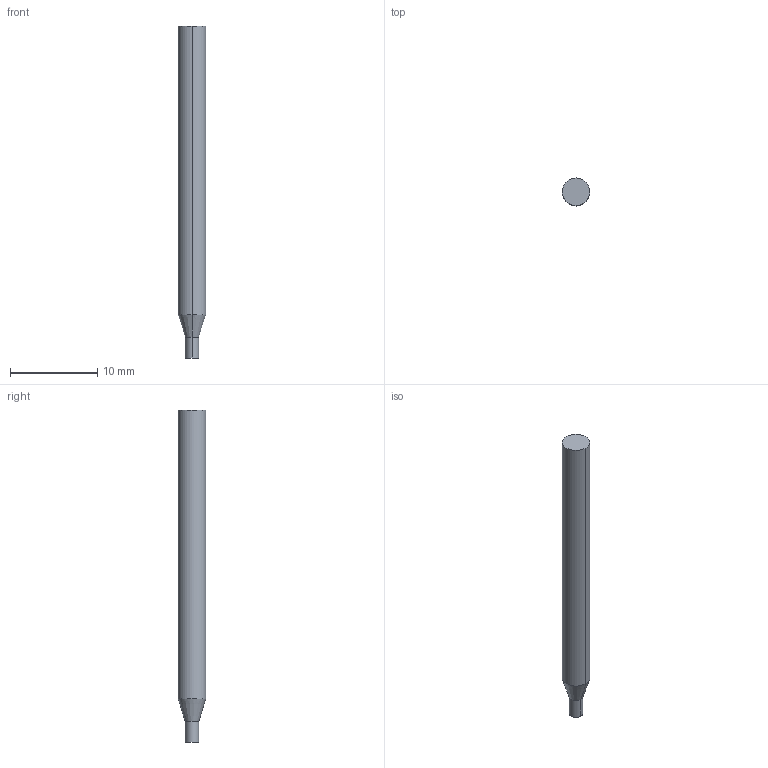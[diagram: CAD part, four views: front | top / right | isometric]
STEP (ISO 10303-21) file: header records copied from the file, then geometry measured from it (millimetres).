
FILE_DESCRIPTION((' '),'2;1');
FILE_NAME( '3MVS0625AH.stp', '2026-01-21T19:07:39', (' '), ('--- Datakit www.datakit.com---'), ' Datakit CrossCadWare V2025.4 Sep 19 2025', 'Mastercam 2027', ' ');
FILE_SCHEMA(('AUTOMOTIVE_DESIGN { 1 0 10303 214 1 1 1 1 }'));
Length unit declared in the file: inch
Products named in the file (1): 3MVS0625AH
Bounding box: 3.17 x 3.17 x 38.1 mm (x, y, z)
Volume: 278.9 mm3; surface area: 372.4 mm2
Topology: 1 solids, 1 shells, 8 faces, 14 edges, 8 vertices
Faces by surface type: cylinder 4, plane 2, cone 2
Entity records: 264 total; most frequent: DIRECTION 48, CARTESIAN_POINT 35, ORIENTED_EDGE 28, AXIS2_PLACEMENT_3D 21, EDGE_CURVE 14, VERTEX_POINT 8, CIRCLE 8, EDGE_LOOP 8
